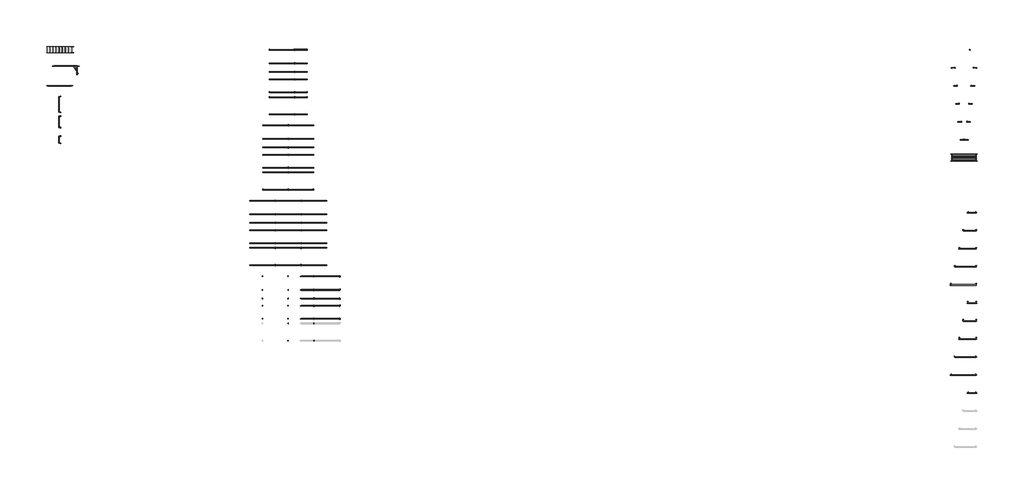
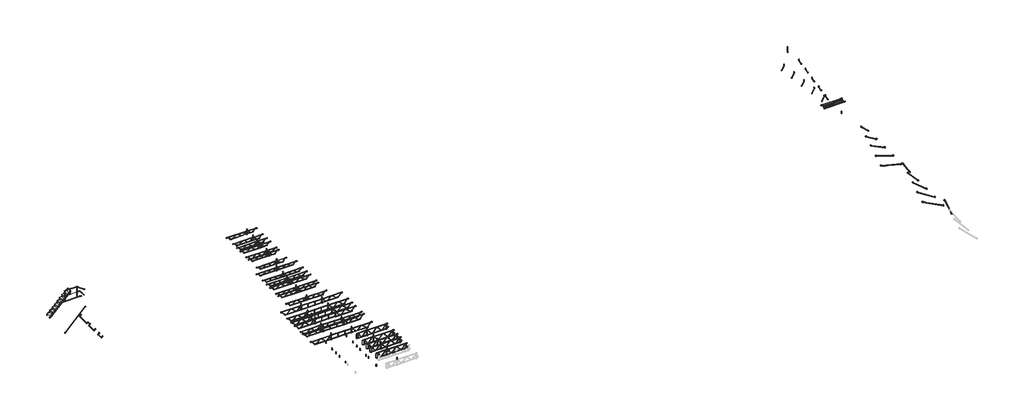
# One storey, part 2 of 2: 103 proxies.
"""IFC4 building model written with IfcOpenShell, lengths in millimetres."""

from ifc_helpers import new_model, si_unit, origin, place, context, project, spatial, transform, mapped, element, save
from components import generic_models_849db72a, generic_models_a82b83a8, generic_models_1110d281, generic_models_9ba98fb6, generic_models_9149ebec, generic_models_e8462fea, generic_models_89b152cf, generic_models_258c66e1, generic_models_ffb8613f, generic_models_e28a5294, generic_models_1a670a13, generic_models_1a3c0f21, generic_models_b59a73c9, generic_models_47678d16, generic_models_ed6e2dec, generic_models_a7a6e0bf, generic_models_2d8e7d99, generic_models_ef642bdb, generic_models_513740f3, generic_models_756b3199, generic_models_037b7c47, generic_models_7b9bd429, generic_models_9f188e84, generic_models_ce839660, generic_models_b0d1cf98, generic_models_d6438b01, generic_models_fa30573d, generic_models_defd56ff, generic_models_5d8191d4, generic_models_7990cb1c, generic_models_4b7686ac, proxy_1200_2f35732d

model = new_model("IFC4")

# Units and contexts
model_context = context("Model", 3, world=origin())
ifc_project = project(units=[si_unit("LENGTHUNIT", "METRE", prefix="MILLI")], contexts=[model_context])

# Site, building, storey
site = spatial("IfcSite", under=ifc_project)
building = spatial("IfcBuilding", under=site)
storey = spatial("IfcBuildingStorey", under=building, Name="レベル 1", Elevation=500.0)

# Proxies
placement = place(None, origin())
generic_models_shape = generic_models_849db72a(model_context)
element("IfcBuildingElementProxy", 1, Name="アルバトロスＡＫ階段手摺_軽 : アルバトロスＡＫ階段手摺_軽", ObjectType="アルバトロスＡＫ階段手摺_軽 : アルバトロスＡＫ階段手摺_軽", at=placement, inside=storey, context=model_context, shape_type="MappedRepresentation", body=[
    mapped(generic_models_shape, transform((49937.3354172, 22612.706542, 500.0), x_axis=(1.0, 0.0, 0.0), y_axis=(0.0, 1.0, 0.0), z_axis=(0.0, 0.0, 1.0))),
])
generic_models_2_shape = generic_models_a82b83a8(model_context)
element("IfcBuildingElementProxy", 2, Name="アルバトロスＡＫ階段受け_軽 : アルバトロスＡＫ階段受けL=1200", ObjectType="アルバトロスＡＫ階段受け_軽 : アルバトロスＡＫ階段受けL=1200", at=placement, inside=storey, context=model_context, shape_type="MappedRepresentation", body=[
    mapped(generic_models_2_shape, transform((49095.5408691, 21906.4841611, 500.0), x_axis=(0.0, -1.0, 0.0), y_axis=(1.0, 0.0, 0.0), z_axis=(0.0, 0.0, 1.0))),
])
generic_models_3_shape = generic_models_1110d281(model_context)
element("IfcBuildingElementProxy", 3, Name="アルバトロスＡＫ階段受け_軽 : アルバトロスＡＫ階段受けL=900", ObjectType="アルバトロスＡＫ階段受け_軽 : アルバトロスＡＫ階段受けL=900", at=placement, inside=storey, context=model_context, shape_type="MappedRepresentation", body=[
    mapped(generic_models_3_shape, transform((49095.5408691, 20542.706542, 500.0), x_axis=(0.0, -1.0, 0.0), y_axis=(1.0, 0.0, 0.0), z_axis=(0.0, 0.0, 1.0))),
])
generic_models_4_shape = generic_models_9ba98fb6(model_context)
element("IfcBuildingElementProxy", 4, Name="アルバトロスＡＫ階段受け_軽 : アルバトロスＡＫ階段受けL=600", ObjectType="アルバトロスＡＫ階段受け_軽 : アルバトロスＡＫ階段受けL=600", at=placement, inside=storey, context=model_context, shape_type="MappedRepresentation", body=[
    mapped(generic_models_4_shape, transform((49095.5408691, 19132.706542, 500.0), x_axis=(0.0, -1.0, 0.0), y_axis=(1.0, 0.0, 0.0), z_axis=(0.0, 0.0, 1.0))),
])
generic_models_5_shape = generic_models_9149ebec(model_context)
element("IfcBuildingElementProxy", 5, Name="AK_アルバトロスＡＫアウトリガー : AK_アルバトロスＡＫアウトリガー", ObjectType="AK_アルバトロスＡＫアウトリガー : AK_アルバトロスＡＫアウトリガー", at=placement, inside=storey, context=model_context, shape_type="MappedRepresentation", body=[
    mapped(generic_models_5_shape, transform((111846.8507471, 25132.706542, 500.0), x_axis=(1.0, 0.0, 0.0), y_axis=(0.0, 1.0, 0.0), z_axis=(0.0, 0.0, 1.0))),
])
generic_models_6_shape = generic_models_e8462fea(model_context)
element("IfcBuildingElementProxy", 6, Name="AK_アルバトロスAK全開閉式床付き布わく : ALTHM518S", ObjectType="AK_アルバトロスAK全開閉式床付き布わく : ALTHM518S", at=placement, inside=storey, context=model_context, shape_type="MappedRepresentation", body=[
    mapped(generic_models_6_shape, transform((111305.1155155, 17331.6914409, 500.0), x_axis=(1.0, 0.0, 0.0), y_axis=(0.0, 1.0, 0.0), z_axis=(0.0, 0.0, 1.0))),
])
generic_models_7_shape = generic_models_89b152cf(model_context)
element("IfcBuildingElementProxy", 7, Name="AK_アルバ用大引受ジャッキかさ上げ金具 : AK_アルバ用大引受ジャッキかさ上げ金具", ObjectType="AK_アルバ用大引受ジャッキかさ上げ金具 : AK_アルバ用大引受ジャッキかさ上げ金具", at=placement, inside=storey, context=model_context, shape_type="MappedRepresentation", body=[
    mapped(generic_models_7_shape, transform((112219.6155155, 16312.706542, 500.0), x_axis=(1.0, 0.0, 0.0), y_axis=(0.0, 1.0, 0.0), z_axis=(0.0, 0.0, 1.0))),
])
generic_models_8_shape = generic_models_258c66e1(model_context)
element("IfcBuildingElementProxy", 8, Name="アルバトロスAK1.5スパンはりわく_軽 : アルバトロスAK1.5スパンはりわく_軽", ObjectType="アルバトロスAK1.5スパンはりわく_軽 : アルバトロスAK1.5スパンはりわく_軽", at=placement, inside=storey, context=model_context, shape_type="MappedRepresentation", body=[
    mapped(generic_models_8_shape, transform((63657.8356425, 25132.706542, 500.0), x_axis=(1.0, 0.0, 0.0), y_axis=(0.0, 1.0, 0.0), z_axis=(0.0, 0.0, 1.0))),
])
generic_models_9_shape = generic_models_ffb8613f(model_context)
element("IfcBuildingElementProxy", 9, Name="アルバトロスAK2スパンはりわく_軽 : アルバトロスAK2スパンはりわく_軽", ObjectType="アルバトロスAK2スパンはりわく_軽 : アルバトロスAK2スパンはりわく_軽", at=placement, inside=storey, context=model_context, shape_type="MappedRepresentation", body=[
    mapped(generic_models_9_shape, transform((63176.3356425, 19852.706542, 500.0), x_axis=(1.0, 0.0, 0.0), y_axis=(0.0, 1.0, 0.0), z_axis=(0.0, 0.0, 1.0))),
])
generic_models_10_shape = generic_models_e28a5294(model_context)
element("IfcBuildingElementProxy", 10, Name="アルバトロスAK3スパンはりわく_軽 : アルバトロスAK3スパンはりわく_軽", ObjectType="アルバトロスAK3スパンはりわく_軽 : アルバトロスAK3スパンはりわく_軽", at=placement, inside=storey, context=model_context, shape_type="MappedRepresentation", body=[
    mapped(generic_models_10_shape, transform((62261.8356425, 14572.706542, 500.0), x_axis=(1.0, 0.0, 0.0), y_axis=(0.0, 1.0, 0.0), z_axis=(0.0, 0.0, 1.0))),
])
generic_models_11_shape = generic_models_1a670a13(model_context)
element("IfcBuildingElementProxy", 11, Name="アルバトロスAK4スパン梁枠短ピン付_軽 : アルバトロスAK4スパン梁枠短ピン付_軽", ObjectType="アルバトロスAK4スパン梁枠短ピン付_軽 : アルバトロスAK4スパン梁枠短ピン付_軽", at=placement, inside=storey, context=model_context, shape_type="MappedRepresentation", body=[
    mapped(generic_models_11_shape, transform((61328.3356425, 7732.706542, 500.0), x_axis=(1.0, 0.0, 0.0), y_axis=(0.0, 1.0, 0.0), z_axis=(0.0, 0.0, 1.0))),
])
element("IfcBuildingElementProxy", 12, Name="アルバトロスAK4スパン梁枠短ピン付_軽 : アルバトロスAK4スパン梁枠短ピン付_軽", ObjectType="アルバトロスAK4スパン梁枠短ピン付_軽 : アルバトロスAK4スパン梁枠短ピン付_軽", at=placement, inside=storey, context=model_context, shape_type="MappedRepresentation", body=[
    mapped(generic_models_11_shape, transform((61328.3356425, 6322.706542, 500.0), x_axis=(1.0, 0.0, 0.0), y_axis=(0.0, 1.0, 0.0), z_axis=(0.0, 0.0, 1.0))),
])
element("IfcBuildingElementProxy", 13, Name="アルバトロスAK4スパン梁枠短ピン付_軽 : アルバトロスAK4スパン梁枠短ピン付_軽", ObjectType="アルバトロスAK4スパン梁枠短ピン付_軽 : アルバトロスAK4スパン梁枠短ピン付_軽", at=placement, inside=storey, context=model_context, shape_type="MappedRepresentation", body=[
    mapped(generic_models_11_shape, transform((61328.3356425, 9292.706542, 500.0), x_axis=(1.0, 0.0, 0.0), y_axis=(0.0, 1.0, 0.0), z_axis=(0.0, 0.0, 1.0))),
])
generic_models_12_shape = generic_models_1a3c0f21(model_context)
element("IfcBuildingElementProxy", 14, Name="AK_アルバトロスAK伸縮斜材 : H0900×L1200", ObjectType="AK_アルバトロスAK伸縮斜材 : H0900×L1200", at=placement, inside=storey, context=model_context, shape_type="MappedRepresentation", body=[
    mapped(generic_models_12_shape, transform((113074.6155155, 11202.706542, 0.0), x_axis=(1.0, 0.0, 0.0), y_axis=(0.0, 1.0, 0.0), z_axis=(0.0, 0.0, 1.0))),
])
generic_models_13_shape = generic_models_b59a73c9(model_context)
element("IfcBuildingElementProxy", 15, Name="AK_アルバトロスAK伸縮斜材 : H1350×L1200", ObjectType="AK_アルバトロスAK伸縮斜材 : H1350×L1200", at=placement, inside=storey, context=model_context, shape_type="MappedRepresentation", body=[
    mapped(generic_models_13_shape, transform((113074.6155155, 4902.706542, 0.0), x_axis=(1.0, 0.0, 0.0), y_axis=(0.0, 1.0, 0.0), z_axis=(0.0, 0.0, 1.0))),
])
generic_models_14_shape = generic_models_47678d16(model_context)
element("IfcBuildingElementProxy", 16, Name="AK_アルバトロスAK伸縮斜材 : H0900×L1500", ObjectType="AK_アルバトロスAK伸縮斜材 : H0900×L1500", at=placement, inside=storey, context=model_context, shape_type="MappedRepresentation", body=[
    mapped(generic_models_14_shape, transform((113074.6155155, 9942.706542, 0.0), x_axis=(1.0, 0.0, 0.0), y_axis=(0.0, 1.0, 0.0), z_axis=(0.0, 0.0, 1.0))),
])
generic_models_15_shape = generic_models_ed6e2dec(model_context)
element("IfcBuildingElementProxy", 17, Name="AK_アルバトロスAK伸縮斜材 : H1350×L1500", ObjectType="AK_アルバトロスAK伸縮斜材 : H1350×L1500", at=placement, inside=storey, context=model_context, shape_type="MappedRepresentation", body=[
    mapped(generic_models_15_shape, transform((113074.6155155, 3642.706542, 0.0), x_axis=(1.0, 0.0, 0.0), y_axis=(0.0, 1.0, 0.0), z_axis=(0.0, 0.0, 1.0))),
])
generic_models_16_shape = generic_models_a7a6e0bf(model_context)
element("IfcBuildingElementProxy", 18, Name="AK_アルバトロスAK伸縮斜材 : H0900×L1800", ObjectType="AK_アルバトロスAK伸縮斜材 : H0900×L1800", at=placement, inside=storey, context=model_context, shape_type="MappedRepresentation", body=[
    mapped(generic_models_16_shape, transform((113074.6155155, 8682.706542, 0.0), x_axis=(1.0, 0.0, 0.0), y_axis=(0.0, 1.0, 0.0), z_axis=(0.0, 0.0, 1.0))),
])
generic_models_17_shape = generic_models_2d8e7d99(model_context)
element("IfcBuildingElementProxy", 19, Name="AK_アルバトロスAK伸縮斜材 : H1350×L1800", ObjectType="AK_アルバトロスAK伸縮斜材 : H1350×L1800", at=placement, inside=storey, context=model_context, shape_type="MappedRepresentation", body=[
    mapped(generic_models_17_shape, transform((113074.6155155, 2382.706542, 0.0), x_axis=(1.0, 0.0, 0.0), y_axis=(0.0, 1.0, 0.0), z_axis=(0.0, 0.0, 1.0))),
])
generic_models_18_shape = generic_models_ef642bdb(model_context)
element("IfcBuildingElementProxy", 20, Name="AK_アルバトロスAK伸縮斜材 : H1350×L0900", ObjectType="AK_アルバトロスAK伸縮斜材 : H1350×L0900", at=placement, inside=storey, context=model_context, shape_type="MappedRepresentation", body=[
    mapped(generic_models_18_shape, transform((113074.6155155, 6162.706542, 0.0), x_axis=(1.0, 0.0, 0.0), y_axis=(0.0, 1.0, 0.0), z_axis=(0.0, 0.0, 1.0))),
])
generic_models_19_shape = generic_models_513740f3(model_context)
element("IfcBuildingElementProxy", 21, Name="AK_アルバトロスAK伸縮斜材 : H1800×L0600", ObjectType="AK_アルバトロスAK伸縮斜材 : H1800×L0600", at=placement, inside=storey, context=model_context, shape_type="MappedRepresentation", body=[
    mapped(generic_models_19_shape, transform((113074.6155155, 1122.706542, 0.0), x_axis=(1.0, 0.0, 0.0), y_axis=(0.0, 1.0, 0.0), z_axis=(0.0, 0.0, 1.0))),
])
generic_models_20_shape = generic_models_756b3199(model_context)
element("IfcBuildingElementProxy", 22, Name="AK_アルバトロスAK伸縮斜材 : H0900×L0900", ObjectType="AK_アルバトロスAK伸縮斜材 : H0900×L0900", at=placement, inside=storey, context=model_context, shape_type="MappedRepresentation", body=[
    mapped(generic_models_20_shape, transform((113074.6155155, 12462.706542, 0.0), x_axis=(1.0, 0.0, 0.0), y_axis=(0.0, 1.0, 0.0), z_axis=(0.0, 0.0, 1.0))),
])
generic_models_21_shape = generic_models_037b7c47(model_context)
element("IfcBuildingElementProxy", 23, Name="AK_アルバトロスAK伸縮斜材 : H0900×L0600", ObjectType="AK_アルバトロスAK伸縮斜材 : H0900×L0600", at=placement, inside=storey, context=model_context, shape_type="MappedRepresentation", body=[
    mapped(generic_models_21_shape, transform((113074.6155155, 13722.706542, 0.0), x_axis=(1.0, 0.0, 0.0), y_axis=(0.0, 1.0, 0.0), z_axis=(0.0, 0.0, 1.0))),
])
generic_models_22_shape = generic_models_7b9bd429(model_context)
element("IfcBuildingElementProxy", 24, Name="AK_アルバトロスAK伸縮斜材 : H1350×L0600", ObjectType="AK_アルバトロスAK伸縮斜材 : H1350×L0600", at=placement, inside=storey, context=model_context, shape_type="MappedRepresentation", body=[
    mapped(generic_models_22_shape, transform((113074.6155155, 7422.706542, 0.0), x_axis=(1.0, 0.0, 0.0), y_axis=(0.0, 1.0, 0.0), z_axis=(0.0, 0.0, 1.0))),
])
generic_models_23_shape = generic_models_9f188e84(model_context)
element("IfcBuildingElementProxy", 25, Name="AK_強化方杖-子_軽 : W0600_強化方杖", ObjectType="AK_強化方杖-子_軽 : W0600_強化方杖", at=placement, inside=storey, context=model_context, shape_type="MappedRepresentation", body=[
    mapped(generic_models_23_shape, transform((111319.6155155, 23872.706542, 500.0), x_axis=(0.0, -1.0, 0.0), y_axis=(1.0, 0.0, 0.0), z_axis=(0.0, 0.0, 1.0))),
])
element("IfcBuildingElementProxy", 26, Name="AK_強化方杖-子_軽 : W0600_強化方杖", ObjectType="AK_強化方杖-子_軽 : W0600_強化方杖", at=placement, inside=storey, context=model_context, shape_type="MappedRepresentation", body=[
    mapped(generic_models_23_shape, transform((111474.6739315, 22612.706542, 500.0), x_axis=(0.0, -1.0, 0.0), y_axis=(1.0, 0.0, 0.0), z_axis=(0.0, 0.0, 1.0))),
])
element("IfcBuildingElementProxy", 27, Name="AK_強化方杖-子_軽 : W0600_強化方杖", ObjectType="AK_強化方杖-子_軽 : W0600_強化方杖", at=placement, inside=storey, context=model_context, shape_type="MappedRepresentation", body=[
    mapped(generic_models_23_shape, transform((111604.6739315, 21352.706542, 500.0), x_axis=(0.0, -1.0, 0.0), y_axis=(1.0, 0.0, 0.0), z_axis=(0.0, 0.0, 1.0))),
])
element("IfcBuildingElementProxy", 28, Name="AK_強化方杖-子_軽 : W0600_強化方杖", ObjectType="AK_強化方杖-子_軽 : W0600_強化方杖", at=placement, inside=storey, context=model_context, shape_type="MappedRepresentation", body=[
    mapped(generic_models_23_shape, transform((111774.6739315, 20092.706542, 500.0), x_axis=(0.0, -1.0, 0.0), y_axis=(1.0, 0.0, 0.0), z_axis=(0.0, 0.0, 1.0))),
])
element("IfcBuildingElementProxy", 29, Name="AK_強化方杖-子_軽 : W0600_強化方杖", ObjectType="AK_強化方杖-子_軽 : W0600_強化方杖", at=placement, inside=storey, context=model_context, shape_type="MappedRepresentation", body=[
    mapped(generic_models_23_shape, transform((111919.6155155, 18832.706542, 500.0), x_axis=(0.0, -1.0, 0.0), y_axis=(1.0, 0.0, 0.0), z_axis=(0.0, 0.0, 1.0))),
])
element("IfcBuildingElementProxy", 30, Name="AK_強化方杖-子_軽 : W0600_強化方杖", ObjectType="AK_強化方杖-子_軽 : W0600_強化方杖", at=placement, inside=storey, context=model_context, shape_type="MappedRepresentation", body=[
    mapped(generic_models_23_shape, transform((113119.6155155, 23872.706542, 500.0), x_axis=(0.0, 1.0, 0.0), y_axis=(-1.0, 0.0, 0.0), z_axis=(0.0, 0.0, 1.0))),
])
element("IfcBuildingElementProxy", 31, Name="AK_強化方杖-子_軽 : W0600_強化方杖", ObjectType="AK_強化方杖-子_軽 : W0600_強化方杖", at=placement, inside=storey, context=model_context, shape_type="MappedRepresentation", body=[
    mapped(generic_models_23_shape, transform((112974.6739315, 22612.706542, 500.0), x_axis=(0.0, 1.0, 0.0), y_axis=(-1.0, 0.0, 0.0), z_axis=(0.0, 0.0, 1.0))),
])
element("IfcBuildingElementProxy", 32, Name="AK_強化方杖-子_軽 : W0600_強化方杖", ObjectType="AK_強化方杖-子_軽 : W0600_強化方杖", at=placement, inside=storey, context=model_context, shape_type="MappedRepresentation", body=[
    mapped(generic_models_23_shape, transform((112804.6739315, 21352.706542, 500.0), x_axis=(0.0, 1.0, 0.0), y_axis=(-1.0, 0.0, 0.0), z_axis=(0.0, 0.0, 1.0))),
])
element("IfcBuildingElementProxy", 33, Name="AK_強化方杖-子_軽 : W0600_強化方杖", ObjectType="AK_強化方杖-子_軽 : W0600_強化方杖", at=placement, inside=storey, context=model_context, shape_type="MappedRepresentation", body=[
    mapped(generic_models_23_shape, transform((112674.6739315, 20092.706542, 500.0), x_axis=(0.0, 1.0, 0.0), y_axis=(-1.0, 0.0, 0.0), z_axis=(0.0, 0.0, 1.0))),
])
element("IfcBuildingElementProxy", 34, Name="AK_強化方杖-子_軽 : W0600_強化方杖", ObjectType="AK_強化方杖-子_軽 : W0600_強化方杖", at=placement, inside=storey, context=model_context, shape_type="MappedRepresentation", body=[
    mapped(generic_models_23_shape, transform((112519.6155155, 18832.706542, 500.0), x_axis=(0.0, 1.0, 0.0), y_axis=(-1.0, 0.0, 0.0), z_axis=(0.0, 0.0, 1.0))),
])
element("IfcBuildingElementProxy", 35, Name="アルバトロスAK1.5スパンはりわく_軽 : アルバトロスAK1.5スパンはりわく_軽", ObjectType="アルバトロスAK1.5スパンはりわく_軽 : アルバトロスAK1.5スパンはりわく_軽", at=placement, inside=storey, context=model_context, shape_type="MappedRepresentation", body=[
    mapped(generic_models_8_shape, transform((63662.8356425, 23582.706542, 500.0), x_axis=(1.0, 0.0, 0.0), y_axis=(0.0, 1.0, 0.0), z_axis=(0.0, 0.0, 1.0))),
])
element("IfcBuildingElementProxy", 36, Name="アルバトロスAK1.5スパンはりわく_軽 : アルバトロスAK1.5スパンはりわく_軽", ObjectType="アルバトロスAK1.5スパンはりわく_軽 : アルバトロスAK1.5スパンはりわく_軽", at=placement, inside=storey, context=model_context, shape_type="MappedRepresentation", body=[
    mapped(generic_models_8_shape, transform((63662.8356425, 22162.706542, 500.0), x_axis=(1.0, 0.0, 0.0), y_axis=(0.0, 1.0, 0.0), z_axis=(0.0, 0.0, 1.0))),
])
element("IfcBuildingElementProxy", 37, Name="アルバトロスAK1.5スパンはりわく_軽 : アルバトロスAK1.5スパンはりわく_軽", ObjectType="アルバトロスAK1.5スパンはりわく_軽 : アルバトロスAK1.5スパンはりわく_軽", at=placement, inside=storey, context=model_context, shape_type="MappedRepresentation", body=[
    mapped(generic_models_8_shape, transform((63662.8356425, 20612.706542, 500.0), x_axis=(1.0, 0.0, 0.0), y_axis=(0.0, 1.0, 0.0), z_axis=(0.0, 0.0, 1.0))),
])
generic_models_24_shape = generic_models_ce839660(model_context)
element("IfcBuildingElementProxy", 38, Name="梁枠部品ピン_軽 : 梁枠部品ピン_軽", ObjectType="梁枠部品ピン_軽 : 梁枠部品ピン_軽", at=placement, inside=storey, context=model_context, shape_type="MappedRepresentation", body=[
    mapped(generic_models_24_shape, transform((65462.8356425, 23582.706542, 500.0), x_axis=(1.0, 0.0, 0.0), y_axis=(0.0, 1.0, 0.0), z_axis=(0.0, 0.0, 1.0))),
])
element("IfcBuildingElementProxy", 39, Name="梁枠部品ピン_軽 : 梁枠部品ピン_軽", ObjectType="梁枠部品ピン_軽 : 梁枠部品ピン_軽", at=placement, inside=storey, context=model_context, shape_type="MappedRepresentation", body=[
    mapped(generic_models_24_shape, transform((65462.8356425, 22162.706542, 500.0), x_axis=(1.0, 0.0, 0.0), y_axis=(0.0, 1.0, 0.0), z_axis=(0.0, 0.0, 1.0))),
])
element("IfcBuildingElementProxy", 40, Name="梁枠部品ピン_軽 : 梁枠部品ピン_軽", ObjectType="梁枠部品ピン_軽 : 梁枠部品ピン_軽", at=placement, inside=storey, context=model_context, shape_type="MappedRepresentation", body=[
    mapped(generic_models_24_shape, transform((65462.8356425, 20612.706542, 500.0), x_axis=(1.0, 0.0, 0.0), y_axis=(0.0, 1.0, 0.0), z_axis=(0.0, 0.0, 1.0))),
])
element("IfcBuildingElementProxy", 41, Name="梁枠部品ピン_軽 : 梁枠部品ピン_軽", ObjectType="梁枠部品ピン_軽 : 梁枠部品ピン_軽", at=placement, inside=storey, context=model_context, shape_type="MappedRepresentation", body=[
    mapped(generic_models_24_shape, transform((65457.8356425, 25132.706542, 500.0), x_axis=(1.0, 0.0, 0.0), y_axis=(0.0, 1.0, 0.0), z_axis=(0.0, 0.0, 1.0))),
])
generic_models_25_shape = generic_models_b0d1cf98(model_context)
element("IfcBuildingElementProxy", 42, Name="アルバトロスAK1.5スパンはりわく_軽 : アルバトロスAK1.5スパンはりわく_軽", ObjectType="アルバトロスAK1.5スパンはりわく_軽 : アルバトロスAK1.5スパンはりわく_軽", at=placement, inside=storey, context=model_context, shape_type="MappedRepresentation", body=[
    mapped(generic_models_25_shape, transform((63662.8356425, 24182.706542, 500.0), x_axis=(1.0, 0.0, 0.0), y_axis=(0.0, 1.0, 0.0), z_axis=(0.0, 0.0, 1.0))),
])
element("IfcBuildingElementProxy", 43, Name="アルバトロスAK1.5スパンはりわく_軽 : アルバトロスAK1.5スパンはりわく_軽", ObjectType="アルバトロスAK1.5スパンはりわく_軽 : アルバトロスAK1.5スパンはりわく_軽", at=placement, inside=storey, context=model_context, shape_type="MappedRepresentation", body=[
    mapped(generic_models_25_shape, transform((63662.8356425, 23062.706542, 500.0), x_axis=(1.0, 0.0, 0.0), y_axis=(0.0, 1.0, 0.0), z_axis=(0.0, 0.0, 1.0))),
])
element("IfcBuildingElementProxy", 44, Name="アルバトロスAK1.5スパンはりわく_軽 : アルバトロスAK1.5スパンはりわく_軽", ObjectType="アルバトロスAK1.5スパンはりわく_軽 : アルバトロスAK1.5スパンはりわく_軽", at=placement, inside=storey, context=model_context, shape_type="MappedRepresentation", body=[
    mapped(generic_models_25_shape, transform((63662.8356425, 21812.706542, 500.0), x_axis=(1.0, 0.0, 0.0), y_axis=(0.0, 1.0, 0.0), z_axis=(0.0, 0.0, 1.0))),
])
generic_models_26_shape = generic_models_d6438b01(model_context)
element("IfcBuildingElementProxy", 45, Name="梁枠部品ピン_軽 : 梁枠部品ピン_軽", ObjectType="梁枠部品ピン_軽 : 梁枠部品ピン_軽", at=placement, inside=storey, context=model_context, shape_type="MappedRepresentation", body=[
    mapped(generic_models_26_shape, transform((65462.8356425, 24182.706542, 500.0), x_axis=(1.0, 0.0, 0.0), y_axis=(0.0, 1.0, 0.0), z_axis=(0.0, 0.0, 1.0))),
])
element("IfcBuildingElementProxy", 46, Name="梁枠部品ピン_軽 : 梁枠部品ピン_軽", ObjectType="梁枠部品ピン_軽 : 梁枠部品ピン_軽", at=placement, inside=storey, context=model_context, shape_type="MappedRepresentation", body=[
    mapped(generic_models_26_shape, transform((65462.8356425, 23062.706542, 500.0), x_axis=(1.0, 0.0, 0.0), y_axis=(0.0, 1.0, 0.0), z_axis=(0.0, 0.0, 1.0))),
])
element("IfcBuildingElementProxy", 47, Name="梁枠部品ピン_軽 : 梁枠部品ピン_軽", ObjectType="梁枠部品ピン_軽 : 梁枠部品ピン_軽", at=placement, inside=storey, context=model_context, shape_type="MappedRepresentation", body=[
    mapped(generic_models_26_shape, transform((65462.8356425, 21812.706542, 500.0), x_axis=(1.0, 0.0, 0.0), y_axis=(0.0, 1.0, 0.0), z_axis=(0.0, 0.0, 1.0))),
])
element("IfcBuildingElementProxy", 48, Name="アルバトロスAK2スパンはりわく_軽 : アルバトロスAK2スパンはりわく_軽", ObjectType="アルバトロスAK2スパンはりわく_軽 : アルバトロスAK2スパンはりわく_軽", at=placement, inside=storey, context=model_context, shape_type="MappedRepresentation", body=[
    mapped(generic_models_9_shape, transform((63176.3356425, 18292.706542, 500.0), x_axis=(1.0, 0.0, 0.0), y_axis=(0.0, 1.0, 0.0), z_axis=(0.0, 0.0, 1.0))),
])
element("IfcBuildingElementProxy", 49, Name="アルバトロスAK2スパンはりわく_軽 : アルバトロスAK2スパンはりわく_軽", ObjectType="アルバトロスAK2スパンはりわく_軽 : アルバトロスAK2スパンはりわく_軽", at=placement, inside=storey, context=model_context, shape_type="MappedRepresentation", body=[
    mapped(generic_models_9_shape, transform((63176.3356425, 16882.706542, 500.0), x_axis=(1.0, 0.0, 0.0), y_axis=(0.0, 1.0, 0.0), z_axis=(0.0, 0.0, 1.0))),
])
element("IfcBuildingElementProxy", 50, Name="アルバトロスAK2スパンはりわく_軽 : アルバトロスAK2スパンはりわく_軽", ObjectType="アルバトロスAK2スパンはりわく_軽 : アルバトロスAK2スパンはりわく_軽", at=placement, inside=storey, context=model_context, shape_type="MappedRepresentation", body=[
    mapped(generic_models_9_shape, transform((63176.3356425, 15352.706542, 500.0), x_axis=(1.0, 0.0, 0.0), y_axis=(0.0, 1.0, 0.0), z_axis=(0.0, 0.0, 1.0))),
])
element("IfcBuildingElementProxy", 51, Name="梁枠部品ピン_軽 : 梁枠部品ピン_軽", ObjectType="梁枠部品ピン_軽 : 梁枠部品ピン_軽", at=placement, inside=storey, context=model_context, shape_type="MappedRepresentation", body=[
    mapped(generic_models_24_shape, transform((65005.3356425, 18292.706542, 500.0), x_axis=(1.0, 0.0, 0.0), y_axis=(0.0, 1.0, 0.0), z_axis=(0.0, 0.0, 1.0))),
])
element("IfcBuildingElementProxy", 52, Name="梁枠部品ピン_軽 : 梁枠部品ピン_軽", ObjectType="梁枠部品ピン_軽 : 梁枠部品ピン_軽", at=placement, inside=storey, context=model_context, shape_type="MappedRepresentation", body=[
    mapped(generic_models_24_shape, transform((65005.3356425, 16882.706542, 500.0), x_axis=(1.0, 0.0, 0.0), y_axis=(0.0, 1.0, 0.0), z_axis=(0.0, 0.0, 1.0))),
])
element("IfcBuildingElementProxy", 53, Name="梁枠部品ピン_軽 : 梁枠部品ピン_軽", ObjectType="梁枠部品ピン_軽 : 梁枠部品ピン_軽", at=placement, inside=storey, context=model_context, shape_type="MappedRepresentation", body=[
    mapped(generic_models_24_shape, transform((65005.3356425, 15352.706542, 500.0), x_axis=(1.0, 0.0, 0.0), y_axis=(0.0, 1.0, 0.0), z_axis=(0.0, 0.0, 1.0))),
])
element("IfcBuildingElementProxy", 54, Name="梁枠部品ピン_軽 : 梁枠部品ピン_軽", ObjectType="梁枠部品ピン_軽 : 梁枠部品ピン_軽", at=placement, inside=storey, context=model_context, shape_type="MappedRepresentation", body=[
    mapped(generic_models_24_shape, transform((65005.3356425, 19852.706542, 500.0), x_axis=(1.0, 0.0, 0.0), y_axis=(0.0, 1.0, 0.0), z_axis=(0.0, 0.0, 1.0))),
])
generic_models_27_shape = generic_models_fa30573d(model_context)
element("IfcBuildingElementProxy", 55, Name="アルバトロスAK2スパンはりわく_軽 : アルバトロスAK2スパンはりわく_軽", ObjectType="アルバトロスAK2スパンはりわく_軽 : アルバトロスAK2スパンはりわく_軽", at=placement, inside=storey, context=model_context, shape_type="MappedRepresentation", body=[
    mapped(generic_models_27_shape, transform((63176.3356425, 18892.706542, 500.0), x_axis=(1.0, 0.0, 0.0), y_axis=(0.0, 1.0, 0.0), z_axis=(0.0, 0.0, 1.0))),
])
element("IfcBuildingElementProxy", 56, Name="アルバトロスAK2スパンはりわく_軽 : アルバトロスAK2スパンはりわく_軽", ObjectType="アルバトロスAK2スパンはりわく_軽 : アルバトロスAK2スパンはりわく_軽", at=placement, inside=storey, context=model_context, shape_type="MappedRepresentation", body=[
    mapped(generic_models_27_shape, transform((63176.3356425, 17782.706542, 500.0), x_axis=(1.0, 0.0, 0.0), y_axis=(0.0, 1.0, 0.0), z_axis=(0.0, 0.0, 1.0))),
])
element("IfcBuildingElementProxy", 57, Name="アルバトロスAK2スパンはりわく_軽 : アルバトロスAK2スパンはりわく_軽", ObjectType="アルバトロスAK2スパンはりわく_軽 : アルバトロスAK2スパンはりわく_軽", at=placement, inside=storey, context=model_context, shape_type="MappedRepresentation", body=[
    mapped(generic_models_27_shape, transform((63176.3356425, 16552.706542, 500.0), x_axis=(1.0, 0.0, 0.0), y_axis=(0.0, 1.0, 0.0), z_axis=(0.0, 0.0, 1.0))),
])
element("IfcBuildingElementProxy", 58, Name="梁枠部品ピン_軽 : 梁枠部品ピン_軽", ObjectType="梁枠部品ピン_軽 : 梁枠部品ピン_軽", at=placement, inside=storey, context=model_context, shape_type="MappedRepresentation", body=[
    mapped(generic_models_26_shape, transform((65005.3356425, 18892.706542, 500.0), x_axis=(1.0, 0.0, 0.0), y_axis=(0.0, 1.0, 0.0), z_axis=(0.0, 0.0, 1.0))),
])
element("IfcBuildingElementProxy", 59, Name="梁枠部品ピン_軽 : 梁枠部品ピン_軽", ObjectType="梁枠部品ピン_軽 : 梁枠部品ピン_軽", at=placement, inside=storey, context=model_context, shape_type="MappedRepresentation", body=[
    mapped(generic_models_26_shape, transform((65005.3356425, 17782.706542, 500.0), x_axis=(1.0, 0.0, 0.0), y_axis=(0.0, 1.0, 0.0), z_axis=(0.0, 0.0, 1.0))),
])
element("IfcBuildingElementProxy", 60, Name="梁枠部品ピン_軽 : 梁枠部品ピン_軽", ObjectType="梁枠部品ピン_軽 : 梁枠部品ピン_軽", at=placement, inside=storey, context=model_context, shape_type="MappedRepresentation", body=[
    mapped(generic_models_26_shape, transform((65005.3356425, 16552.706542, 500.0), x_axis=(1.0, 0.0, 0.0), y_axis=(0.0, 1.0, 0.0), z_axis=(0.0, 0.0, 1.0))),
])
element("IfcBuildingElementProxy", 61, Name="アルバトロスAK3スパンはりわく_軽 : アルバトロスAK3スパンはりわく_軽", ObjectType="アルバトロスAK3スパンはりわく_軽 : アルバトロスAK3スパンはりわく_軽", at=placement, inside=storey, context=model_context, shape_type="MappedRepresentation", body=[
    mapped(generic_models_10_shape, transform((62261.8356425, 13028.206542, 500.0), x_axis=(1.0, 0.0, 0.0), y_axis=(0.0, 1.0, 0.0), z_axis=(0.0, 0.0, 1.0))),
])
element("IfcBuildingElementProxy", 62, Name="アルバトロスAK3スパンはりわく_軽 : アルバトロスAK3スパンはりわく_軽", ObjectType="アルバトロスAK3スパンはりわく_軽 : アルバトロスAK3スパンはりわく_軽", at=placement, inside=storey, context=model_context, shape_type="MappedRepresentation", body=[
    mapped(generic_models_10_shape, transform((62261.8356425, 11602.706542, 500.0), x_axis=(1.0, 0.0, 0.0), y_axis=(0.0, 1.0, 0.0), z_axis=(0.0, 0.0, 1.0))),
])
element("IfcBuildingElementProxy", 63, Name="アルバトロスAK3スパンはりわく_軽 : アルバトロスAK3スパンはりわく_軽", ObjectType="アルバトロスAK3スパンはりわく_軽 : アルバトロスAK3スパンはりわく_軽", at=placement, inside=storey, context=model_context, shape_type="MappedRepresentation", body=[
    mapped(generic_models_10_shape, transform((62261.8356425, 10072.706542, 500.0), x_axis=(1.0, 0.0, 0.0), y_axis=(0.0, 1.0, 0.0), z_axis=(0.0, 0.0, 1.0))),
])
element("IfcBuildingElementProxy", 64, Name="梁枠部品ピン_軽 : 梁枠部品ピン_軽", ObjectType="梁枠部品ピン_軽 : 梁枠部品ピン_軽", at=placement, inside=storey, context=model_context, shape_type="MappedRepresentation", body=[
    mapped(generic_models_24_shape, transform((64105.3356425, 11602.706542, 500.0), x_axis=(1.0, 0.0, 0.0), y_axis=(0.0, 1.0, 0.0), z_axis=(0.0, 0.0, 1.0))),
])
element("IfcBuildingElementProxy", 65, Name="梁枠部品ピン_軽 : 梁枠部品ピン_軽", ObjectType="梁枠部品ピン_軽 : 梁枠部品ピン_軽", at=placement, inside=storey, context=model_context, shape_type="MappedRepresentation", body=[
    mapped(generic_models_24_shape, transform((65905.3356425, 11602.706542, 500.0), x_axis=(1.0, 0.0, 0.0), y_axis=(0.0, 1.0, 0.0), z_axis=(0.0, 0.0, 1.0))),
])
element("IfcBuildingElementProxy", 66, Name="梁枠部品ピン_軽 : 梁枠部品ピン_軽", ObjectType="梁枠部品ピン_軽 : 梁枠部品ピン_軽", at=placement, inside=storey, context=model_context, shape_type="MappedRepresentation", body=[
    mapped(generic_models_24_shape, transform((64105.3356425, 10072.706542, 500.0), x_axis=(1.0, 0.0, 0.0), y_axis=(0.0, 1.0, 0.0), z_axis=(0.0, 0.0, 1.0))),
])
element("IfcBuildingElementProxy", 67, Name="梁枠部品ピン_軽 : 梁枠部品ピン_軽", ObjectType="梁枠部品ピン_軽 : 梁枠部品ピン_軽", at=placement, inside=storey, context=model_context, shape_type="MappedRepresentation", body=[
    mapped(generic_models_24_shape, transform((65905.3356425, 10072.706542, 500.0), x_axis=(1.0, 0.0, 0.0), y_axis=(0.0, 1.0, 0.0), z_axis=(0.0, 0.0, 1.0))),
])
element("IfcBuildingElementProxy", 68, Name="梁枠部品ピン_軽 : 梁枠部品ピン_軽", ObjectType="梁枠部品ピン_軽 : 梁枠部品ピン_軽", at=placement, inside=storey, context=model_context, shape_type="MappedRepresentation", body=[
    mapped(generic_models_24_shape, transform((64105.3356425, 14572.706542, 500.0), x_axis=(1.0, 0.0, 0.0), y_axis=(0.0, 1.0, 0.0), z_axis=(0.0, 0.0, 1.0))),
])
element("IfcBuildingElementProxy", 69, Name="梁枠部品ピン_軽 : 梁枠部品ピン_軽", ObjectType="梁枠部品ピン_軽 : 梁枠部品ピン_軽", at=placement, inside=storey, context=model_context, shape_type="MappedRepresentation", body=[
    mapped(generic_models_24_shape, transform((65905.3356425, 14572.706542, 500.0), x_axis=(1.0, 0.0, 0.0), y_axis=(0.0, 1.0, 0.0), z_axis=(0.0, 0.0, 1.0))),
])
element("IfcBuildingElementProxy", 70, Name="梁枠部品ピン_軽 : 梁枠部品ピン_軽", ObjectType="梁枠部品ピン_軽 : 梁枠部品ピン_軽", at=placement, inside=storey, context=model_context, shape_type="MappedRepresentation", body=[
    mapped(generic_models_24_shape, transform((64105.3356425, 13028.206542, 500.0), x_axis=(1.0, 0.0, 0.0), y_axis=(0.0, 1.0, 0.0), z_axis=(0.0, 0.0, 1.0))),
])
element("IfcBuildingElementProxy", 71, Name="梁枠部品ピン_軽 : 梁枠部品ピン_軽", ObjectType="梁枠部品ピン_軽 : 梁枠部品ピン_軽", at=placement, inside=storey, context=model_context, shape_type="MappedRepresentation", body=[
    mapped(generic_models_24_shape, transform((65905.3356425, 13028.206542, 500.0), x_axis=(1.0, 0.0, 0.0), y_axis=(0.0, 1.0, 0.0), z_axis=(0.0, 0.0, 1.0))),
])
generic_models_28_shape = generic_models_defd56ff(model_context)
element("IfcBuildingElementProxy", 72, Name="アルバトロスAK3スパンはりわく_軽 : アルバトロスAK3スパンはりわく_軽", ObjectType="アルバトロスAK3スパンはりわく_軽 : アルバトロスAK3スパンはりわく_軽", at=placement, inside=storey, context=model_context, shape_type="MappedRepresentation", body=[
    mapped(generic_models_28_shape, transform((62261.8356425, 13628.206542, 500.0), x_axis=(1.0, 0.0, 0.0), y_axis=(0.0, 1.0, 0.0), z_axis=(0.0, 0.0, 1.0))),
])
element("IfcBuildingElementProxy", 73, Name="アルバトロスAK3スパンはりわく_軽 : アルバトロスAK3スパンはりわく_軽", ObjectType="アルバトロスAK3スパンはりわく_軽 : アルバトロスAK3スパンはりわく_軽", at=placement, inside=storey, context=model_context, shape_type="MappedRepresentation", body=[
    mapped(generic_models_28_shape, transform((62261.8356425, 12502.706542, 500.0), x_axis=(1.0, 0.0, 0.0), y_axis=(0.0, 1.0, 0.0), z_axis=(0.0, 0.0, 1.0))),
])
element("IfcBuildingElementProxy", 74, Name="アルバトロスAK3スパンはりわく_軽 : アルバトロスAK3スパンはりわく_軽", ObjectType="アルバトロスAK3スパンはりわく_軽 : アルバトロスAK3スパンはりわく_軽", at=placement, inside=storey, context=model_context, shape_type="MappedRepresentation", body=[
    mapped(generic_models_28_shape, transform((62261.8356425, 11272.706542, 500.0), x_axis=(1.0, 0.0, 0.0), y_axis=(0.0, 1.0, 0.0), z_axis=(0.0, 0.0, 1.0))),
])
element("IfcBuildingElementProxy", 75, Name="梁枠部品ピン_軽 : 梁枠部品ピン_軽", ObjectType="梁枠部品ピン_軽 : 梁枠部品ピン_軽", at=placement, inside=storey, context=model_context, shape_type="MappedRepresentation", body=[
    mapped(generic_models_26_shape, transform((64105.3356425, 12502.706542, 500.0), x_axis=(1.0, 0.0, 0.0), y_axis=(0.0, 1.0, 0.0), z_axis=(0.0, 0.0, 1.0))),
])
element("IfcBuildingElementProxy", 76, Name="梁枠部品ピン_軽 : 梁枠部品ピン_軽", ObjectType="梁枠部品ピン_軽 : 梁枠部品ピン_軽", at=placement, inside=storey, context=model_context, shape_type="MappedRepresentation", body=[
    mapped(generic_models_26_shape, transform((65905.3356425, 12502.706542, 500.0), x_axis=(1.0, 0.0, 0.0), y_axis=(0.0, 1.0, 0.0), z_axis=(0.0, 0.0, 1.0))),
])
element("IfcBuildingElementProxy", 77, Name="梁枠部品ピン_軽 : 梁枠部品ピン_軽", ObjectType="梁枠部品ピン_軽 : 梁枠部品ピン_軽", at=placement, inside=storey, context=model_context, shape_type="MappedRepresentation", body=[
    mapped(generic_models_26_shape, transform((64105.3356425, 11272.706542, 500.0), x_axis=(1.0, 0.0, 0.0), y_axis=(0.0, 1.0, 0.0), z_axis=(0.0, 0.0, 1.0))),
])
element("IfcBuildingElementProxy", 78, Name="梁枠部品ピン_軽 : 梁枠部品ピン_軽", ObjectType="梁枠部品ピン_軽 : 梁枠部品ピン_軽", at=placement, inside=storey, context=model_context, shape_type="MappedRepresentation", body=[
    mapped(generic_models_26_shape, transform((65905.3356425, 11272.706542, 500.0), x_axis=(1.0, 0.0, 0.0), y_axis=(0.0, 1.0, 0.0), z_axis=(0.0, 0.0, 1.0))),
])
element("IfcBuildingElementProxy", 79, Name="梁枠部品ピン_軽 : 梁枠部品ピン_軽", ObjectType="梁枠部品ピン_軽 : 梁枠部品ピン_軽", at=placement, inside=storey, context=model_context, shape_type="MappedRepresentation", body=[
    mapped(generic_models_26_shape, transform((64105.3356425, 13628.206542, 500.0), x_axis=(1.0, 0.0, 0.0), y_axis=(0.0, 1.0, 0.0), z_axis=(0.0, 0.0, 1.0))),
])
element("IfcBuildingElementProxy", 80, Name="梁枠部品ピン_軽 : 梁枠部品ピン_軽", ObjectType="梁枠部品ピン_軽 : 梁枠部品ピン_軽", at=placement, inside=storey, context=model_context, shape_type="MappedRepresentation", body=[
    mapped(generic_models_26_shape, transform((65905.3356425, 13628.206542, 500.0), x_axis=(1.0, 0.0, 0.0), y_axis=(0.0, 1.0, 0.0), z_axis=(0.0, 0.0, 1.0))),
])
element("IfcBuildingElementProxy", 81, Name="梁枠部品ピン_軽 : 梁枠部品ピン_軽", ObjectType="梁枠部品ピン_軽 : 梁枠部品ピン_軽", at=placement, inside=storey, context=model_context, shape_type="MappedRepresentation", body=[
    mapped(generic_models_26_shape, transform((63205.3356425, 8332.706542, 500.0), x_axis=(1.0, 0.0, 0.0), y_axis=(0.0, 1.0, 0.0), z_axis=(0.0, 0.0, 1.0))),
])
element("IfcBuildingElementProxy", 82, Name="梁枠部品ピン_軽 : 梁枠部品ピン_軽", ObjectType="梁枠部品ピン_軽 : 梁枠部品ピン_軽", at=placement, inside=storey, context=model_context, shape_type="MappedRepresentation", body=[
    mapped(generic_models_26_shape, transform((65005.3356425, 8332.706542, 500.0), x_axis=(1.0, 0.0, 0.0), y_axis=(0.0, 1.0, 0.0), z_axis=(0.0, 0.0, 1.0))),
])
element("IfcBuildingElementProxy", 83, Name="梁枠部品ピン_軽 : 梁枠部品ピン_軽", ObjectType="梁枠部品ピン_軽 : 梁枠部品ピン_軽", at=placement, inside=storey, context=model_context, shape_type="MappedRepresentation", body=[
    mapped(generic_models_26_shape, transform((66805.3356425, 8332.706542, 500.0), x_axis=(1.0, 0.0, 0.0), y_axis=(0.0, 1.0, 0.0), z_axis=(0.0, 0.0, 1.0))),
])
element("IfcBuildingElementProxy", 84, Name="梁枠部品ピン_軽 : 梁枠部品ピン_軽", ObjectType="梁枠部品ピン_軽 : 梁枠部品ピン_軽", at=placement, inside=storey, context=model_context, shape_type="MappedRepresentation", body=[
    mapped(generic_models_26_shape, transform((63205.3356425, 7222.706542, 500.0), x_axis=(1.0, 0.0, 0.0), y_axis=(0.0, 1.0, 0.0), z_axis=(0.0, 0.0, 1.0))),
])
element("IfcBuildingElementProxy", 85, Name="梁枠部品ピン_軽 : 梁枠部品ピン_軽", ObjectType="梁枠部品ピン_軽 : 梁枠部品ピン_軽", at=placement, inside=storey, context=model_context, shape_type="MappedRepresentation", body=[
    mapped(generic_models_26_shape, transform((65005.3356425, 7222.706542, 500.0), x_axis=(1.0, 0.0, 0.0), y_axis=(0.0, 1.0, 0.0), z_axis=(0.0, 0.0, 1.0))),
])
element("IfcBuildingElementProxy", 86, Name="梁枠部品ピン_軽 : 梁枠部品ピン_軽", ObjectType="梁枠部品ピン_軽 : 梁枠部品ピン_軽", at=placement, inside=storey, context=model_context, shape_type="MappedRepresentation", body=[
    mapped(generic_models_26_shape, transform((66805.3356425, 7222.706542, 500.0), x_axis=(1.0, 0.0, 0.0), y_axis=(0.0, 1.0, 0.0), z_axis=(0.0, 0.0, 1.0))),
])
element("IfcBuildingElementProxy", 87, Name="梁枠部品ピン_軽 : 梁枠部品ピン_軽", ObjectType="梁枠部品ピン_軽 : 梁枠部品ピン_軽", at=placement, inside=storey, context=model_context, shape_type="MappedRepresentation", body=[
    mapped(generic_models_26_shape, transform((65005.3356425, 5992.706542, 500.0), x_axis=(1.0, 0.0, 0.0), y_axis=(0.0, 1.0, 0.0), z_axis=(0.0, 0.0, 1.0))),
])
element("IfcBuildingElementProxy", 88, Name="梁枠部品ピン_軽 : 梁枠部品ピン_軽", ObjectType="梁枠部品ピン_軽 : 梁枠部品ピン_軽", at=placement, inside=storey, context=model_context, shape_type="MappedRepresentation", body=[
    mapped(generic_models_26_shape, transform((66805.3356425, 5992.706542, 500.0), x_axis=(1.0, 0.0, 0.0), y_axis=(0.0, 1.0, 0.0), z_axis=(0.0, 0.0, 1.0))),
])
generic_models_29_shape = generic_models_5d8191d4(model_context)
element("IfcBuildingElementProxy", 89, Name="アルバトロスAK4スパン梁枠短ピン付_軽 : アルバトロスAK4スパン梁枠短ピン付_軽", ObjectType="アルバトロスAK4スパン梁枠短ピン付_軽 : アルバトロスAK4スパン梁枠短ピン付_軽", at=placement, inside=storey, context=model_context, shape_type="MappedRepresentation", body=[
    mapped(generic_models_29_shape, transform((61328.3356425, 8332.706542, 500.0), x_axis=(1.0, 0.0, 0.0), y_axis=(0.0, 1.0, 0.0), z_axis=(0.0, 0.0, 1.0))),
])
element("IfcBuildingElementProxy", 90, Name="アルバトロスAK4スパン梁枠短ピン付_軽 : アルバトロスAK4スパン梁枠短ピン付_軽", ObjectType="アルバトロスAK4スパン梁枠短ピン付_軽 : アルバトロスAK4スパン梁枠短ピン付_軽", at=placement, inside=storey, context=model_context, shape_type="MappedRepresentation", body=[
    mapped(generic_models_29_shape, transform((61328.3356425, 7222.706542, 500.0), x_axis=(1.0, 0.0, 0.0), y_axis=(0.0, 1.0, 0.0), z_axis=(0.0, 0.0, 1.0))),
])
element("IfcBuildingElementProxy", 91, Name="梁枠部品ピン_軽 : 梁枠部品ピン_軽", ObjectType="梁枠部品ピン_軽 : 梁枠部品ピン_軽", at=placement, inside=storey, context=model_context, shape_type="MappedRepresentation", body=[
    mapped(generic_models_24_shape, transform((63205.3356425, 7732.706542, 500.0), x_axis=(1.0, 0.0, 0.0), y_axis=(0.0, 1.0, 0.0), z_axis=(0.0, 0.0, 1.0))),
])
element("IfcBuildingElementProxy", 92, Name="梁枠部品ピン_軽 : 梁枠部品ピン_軽", ObjectType="梁枠部品ピン_軽 : 梁枠部品ピン_軽", at=placement, inside=storey, context=model_context, shape_type="MappedRepresentation", body=[
    mapped(generic_models_24_shape, transform((65005.3356425, 7732.706542, 500.0), x_axis=(1.0, 0.0, 0.0), y_axis=(0.0, 1.0, 0.0), z_axis=(0.0, 0.0, 1.0))),
])
element("IfcBuildingElementProxy", 93, Name="梁枠部品ピン_軽 : 梁枠部品ピン_軽", ObjectType="梁枠部品ピン_軽 : 梁枠部品ピン_軽", at=placement, inside=storey, context=model_context, shape_type="MappedRepresentation", body=[
    mapped(generic_models_24_shape, transform((66805.3356425, 7732.706542, 500.0), x_axis=(1.0, 0.0, 0.0), y_axis=(0.0, 1.0, 0.0), z_axis=(0.0, 0.0, 1.0))),
])
element("IfcBuildingElementProxy", 94, Name="梁枠部品ピン_軽 : 梁枠部品ピン_軽", ObjectType="梁枠部品ピン_軽 : 梁枠部品ピン_軽", at=placement, inside=storey, context=model_context, shape_type="MappedRepresentation", body=[
    mapped(generic_models_24_shape, transform((63205.3356425, 6322.706542, 500.0), x_axis=(1.0, 0.0, 0.0), y_axis=(0.0, 1.0, 0.0), z_axis=(0.0, 0.0, 1.0))),
])
element("IfcBuildingElementProxy", 95, Name="梁枠部品ピン_軽 : 梁枠部品ピン_軽", ObjectType="梁枠部品ピン_軽 : 梁枠部品ピン_軽", at=placement, inside=storey, context=model_context, shape_type="MappedRepresentation", body=[
    mapped(generic_models_24_shape, transform((65005.3356425, 6322.706542, 500.0), x_axis=(1.0, 0.0, 0.0), y_axis=(0.0, 1.0, 0.0), z_axis=(0.0, 0.0, 1.0))),
])
element("IfcBuildingElementProxy", 96, Name="梁枠部品ピン_軽 : 梁枠部品ピン_軽", ObjectType="梁枠部品ピン_軽 : 梁枠部品ピン_軽", at=placement, inside=storey, context=model_context, shape_type="MappedRepresentation", body=[
    mapped(generic_models_24_shape, transform((66805.3356425, 6322.706542, 500.0), x_axis=(1.0, 0.0, 0.0), y_axis=(0.0, 1.0, 0.0), z_axis=(0.0, 0.0, 1.0))),
])
element("IfcBuildingElementProxy", 97, Name="梁枠部品ピン_軽 : 梁枠部品ピン_軽", ObjectType="梁枠部品ピン_軽 : 梁枠部品ピン_軽", at=placement, inside=storey, context=model_context, shape_type="MappedRepresentation", body=[
    mapped(generic_models_24_shape, transform((65005.3356425, 4792.706542, 500.0), x_axis=(1.0, 0.0, 0.0), y_axis=(0.0, 1.0, 0.0), z_axis=(0.0, 0.0, 1.0))),
])
element("IfcBuildingElementProxy", 98, Name="梁枠部品ピン_軽 : 梁枠部品ピン_軽", ObjectType="梁枠部品ピン_軽 : 梁枠部品ピン_軽", at=placement, inside=storey, context=model_context, shape_type="MappedRepresentation", body=[
    mapped(generic_models_24_shape, transform((66805.3356425, 4792.706542, 500.0), x_axis=(1.0, 0.0, 0.0), y_axis=(0.0, 1.0, 0.0), z_axis=(0.0, 0.0, 1.0))),
])
element("IfcBuildingElementProxy", 99, Name="梁枠部品ピン_軽 : 梁枠部品ピン_軽", ObjectType="梁枠部品ピン_軽 : 梁枠部品ピン_軽", at=placement, inside=storey, context=model_context, shape_type="MappedRepresentation", body=[
    mapped(generic_models_24_shape, transform((63205.3356425, 9292.706542, 500.0), x_axis=(1.0, 0.0, 0.0), y_axis=(0.0, 1.0, 0.0), z_axis=(0.0, 0.0, 1.0))),
])
element("IfcBuildingElementProxy", 100, Name="梁枠部品ピン_軽 : 梁枠部品ピン_軽", ObjectType="梁枠部品ピン_軽 : 梁枠部品ピン_軽", at=placement, inside=storey, context=model_context, shape_type="MappedRepresentation", body=[
    mapped(generic_models_24_shape, transform((65005.3356425, 9292.706542, 500.0), x_axis=(1.0, 0.0, 0.0), y_axis=(0.0, 1.0, 0.0), z_axis=(0.0, 0.0, 1.0))),
])
element("IfcBuildingElementProxy", 101, Name="梁枠部品ピン_軽 : 梁枠部品ピン_軽", ObjectType="梁枠部品ピン_軽 : 梁枠部品ピン_軽", at=placement, inside=storey, context=model_context, shape_type="MappedRepresentation", body=[
    mapped(generic_models_24_shape, transform((66805.3356425, 9292.706542, 500.0), x_axis=(1.0, 0.0, 0.0), y_axis=(0.0, 1.0, 0.0), z_axis=(0.0, 0.0, 1.0))),
])
generic_models_30_shape = generic_models_7990cb1c(model_context)
generic_models_31_shape = generic_models_4b7686ac(model_context)
element("IfcBuildingElementProxy", 102, Name="アルバトロスＡＫアルミ階段_子 : アルバトロスＡＫアルミ階段", ObjectType="アルバトロスＡＫアルミ階段_子 : アルバトロスＡＫアルミ階段", at=placement, inside=storey, context=model_context, shape_type="MappedRepresentation", body=[
    mapped(generic_models_30_shape, transform((48174.3354172, 24925.706542, -1300.0), x_axis=(1.0, 0.0, 0.0), y_axis=(0.0, 1.0, 0.0), z_axis=(0.0, 0.0, 1.0))),
    mapped(generic_models_31_shape, transform((48174.3354172, 24925.706542, -1300.0), x_axis=(1.0, 0.0, 0.0), y_axis=(0.0, 1.0, 0.0), z_axis=(0.0, 0.0, 1.0))),
])
proxy_1200_shape = proxy_1200_2f35732d(model_context)
element("IfcBuildingElementProxy", 103, Name="AK_アルミ階段開口部手摺枠_軽 : 1200", ObjectType="AK_アルミ階段開口部手摺枠_軽 : 1200", at=placement, inside=storey, context=model_context, shape_type="MappedRepresentation", body=[
    mapped(proxy_1200_shape, transform((49454.9075357, 23862.706542, 500.0), x_axis=(1.0, 0.0, 0.0), y_axis=(0.0, 1.0, 0.0), z_axis=(0.0, 0.0, 1.0))),
])

save(model, "model.ifc")
